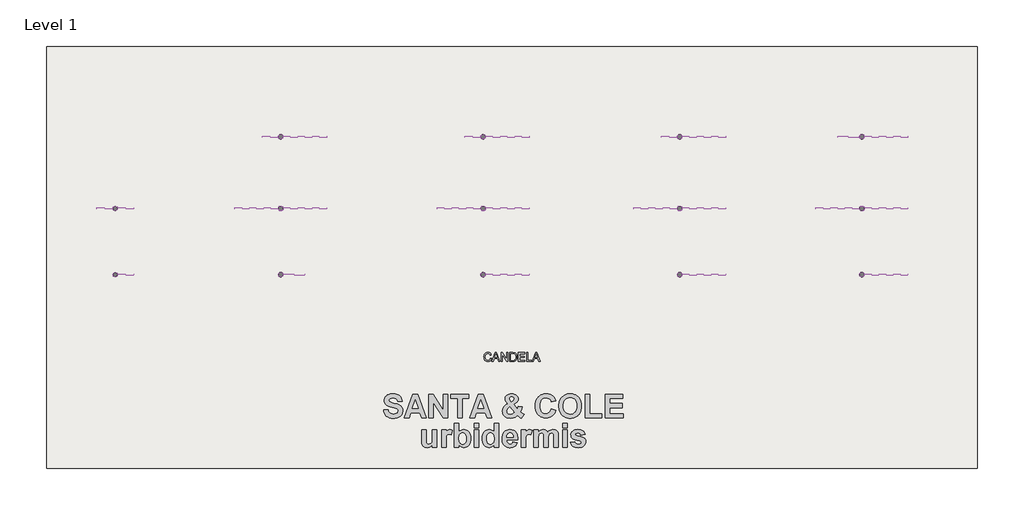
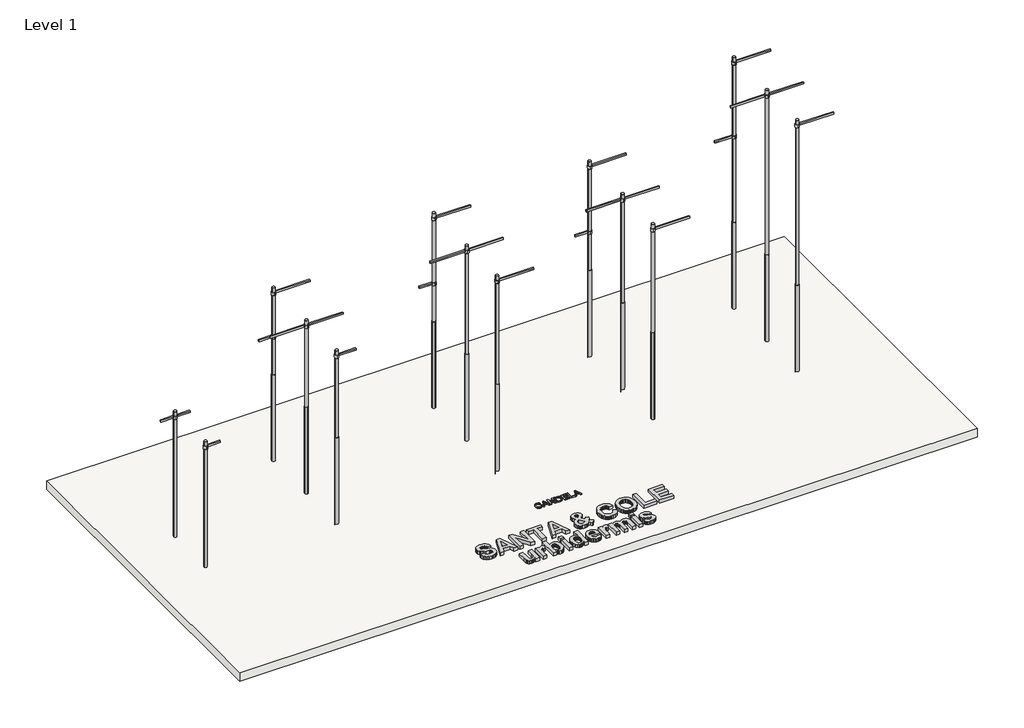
# One storey, incomplete: 32 light fixtures, 2 proxies, 1 slab.
"""IFC4 building model written with IfcOpenShell, lengths in millimetres."""

from ifc_helpers import new_model, si_unit, frame, origin, origin_with_axes, place, context, project, spatial, polyline, outline, extrude, transform, mapped, element, save
from components import light_fixture_f490e10b, light_fixture_0dd875ff, light_fixture_b12cba50, light_fixture_033000f6, light_fixture_89e1cdf7, light_fixture_b2014c29, light_fixture_203ad779, cnf31p_0bf3cfd4, raf21p_b6533331, raf51p_179f5f42, raf81p_6bf53c42

model = new_model("IFC4")

# Units and contexts
model_context = context("Model", 3, world=origin())
ifc_project = project(units=[si_unit("LENGTHUNIT", "METRE", prefix="MILLI")], contexts=[model_context])

# Site, building, storey
site = spatial("IfcSite", under=ifc_project)
building = spatial("IfcBuilding", under=site)
storey = spatial("IfcBuildingStorey", under=building, Name="Level 1", Elevation=0.0)

# Proxies
placement = place(None, origin())
element("IfcBuildingElementProxy", 1, Name="300mm Arial", ObjectType="300mm Arial", at=placement, inside=storey, context=model_context, shape_type="SweptSolid", body=[
    extrude(outline(polyline([(13112.9586959, -8877.0909433), (13150.6298122, -8886.803028), (13143.1756032, -8910.2302133), (13133.2473879, -8930.7005471), (13120.8451661, -8948.2140293), (13105.968938, -8962.77066), (13088.9543957, -8974.2140893), (13070.1372316, -8982.3879674), (13049.5174458, -8987.2922943), (13027.0950382, -8988.9270699), (12983.3998542, -8983.979057), (12948.699385, -8969.1350185), (12922.1015168, -8944.9099892), (12902.7141356, -8911.8190037), (12890.8775324, -8872.9154827), (12886.931998, -8831.2528467), (12891.3925672, -8787.3093424), (12904.7742748, -8749.3623146), (12926.378145, -8718.6165769), (12955.5052019, -8696.2769427), (12990.0493213, -8682.6745059), (13027.9043786, -8678.1403604), (13069.2083296, -8684.0080782), (13087.1770658, -8691.3427255), (13103.3569758, -8701.6112316), (13117.4813451, -8714.5422838), (13129.2834594, -8729.8645689), (13145.9209226, -8767.682838), (13108.2498063, -8776.6591587), (13095.1899955, -8749.1875707), (13077.3477187, -8730.3428155), (13054.5022468, -8719.4443114), (13026.4328506, -8715.8114767), (12994.0776291, -8719.8397845), (12967.498155, -8731.924708), (12947.3290246, -8750.7970544), (12934.2048344, -8775.1876307), (12927.0035444, -8802.7603862), (12924.6031143, -8831.1792703), (12927.4450027, -8865.9809071), (12935.970668, -8896.0736543), (12950.5020068, -8920.3078807), (12971.3609159, -8937.5339552), (12996.3676945, -8947.825454), (13023.3426418, -8951.2559536), (13054.7873554, -8946.5838522), (13080.9897505, -8932.5675482), (13100.7726048, -8909.3541943), (13112.9586959, -8877.0909433)])), origin_with_axes(), (0.0, 0.0, 1.0), 50.0),
    extrude(outline(polyline([(13167.3316548, -8984.2181803), (13287.6290672, -8682.8492499), (13319.7083772, -8682.8492499), (13440.0057896, -8984.2181803), (13400.2009577, -8984.2181803), (13365.6936266, -8890.0403896), (13241.5702414, -8890.0403896), (13207.1364866, -8984.2181803), (13167.3316548, -8984.2181803)]), holes=[polyline([(13255.4026044, -8852.3692733), (13351.9348399, -8852.3692733), (13324.7851487, -8778.2778394), (13303.6687222, -8720.5203662), (13284.9067404, -8771.8031163), (13255.4026044, -8852.3692733)])]), origin_with_axes(), (0.0, 0.0, 1.0), 50.0),
    extrude(outline(polyline([(13480.2520798, -8984.2181803), (13480.2520798, -8682.8492499), (13520.5719465, -8682.8492499), (13678.0254405, -8921.6046648), (13678.0254405, -8682.8492499), (13715.6965568, -8682.8492499), (13715.6965568, -8984.2181803), (13675.3766901, -8984.2181803), (13517.9231962, -8745.3891891), (13517.9231962, -8984.2181803), (13480.2520798, -8984.2181803)])), origin_with_axes(), (0.0, 0.0, 1.0), 50.0),
    extrude(outline(polyline([(13781.6210103, -8984.2181803), (13781.6210103, -8682.8492499), (13885.5844621, -8682.8492499), (13939.3688098, -8687.1902574), (13963.3915041, -8695.5595728), (13983.661802, -8708.7481424), (14004.5023171, -8731.7039789), (14019.3463556, -8760.2516217), (14028.2307058, -8793.8392478), (14031.1921558, -8831.9150343), (14029.187199, -8864.2610588), (14023.1723283, -8892.7259281), (14014.0120667, -8916.9601546), (14002.5709366, -8936.6142502), (13989.4007612, -8952.1296733), (13975.0533634, -8963.9478824), (13958.581447, -8972.7126709), (13939.037716, -8979.0678324), (13890.5876573, -8984.2181803), (13781.6210103, -8984.2181803)]), holes=[polyline([(13819.2921266, -8946.547064), (13885.9523441, -8946.547064), (13913.5250997, -8945.1859007), (13934.4391911, -8941.1024105), (13950.2213287, -8934.5357169), (13962.3982227, -8925.7249431), (13975.4856247, -8909.4185737), (13985.317271, -8888.3113442), (13991.4700974, -8862.3112842), (13993.5210395, -8831.3264231), (13989.5019287, -8790.2707925), (13977.4445963, -8759.9573161), (13959.6299107, -8739.1351952), (13938.3387402, -8726.5536309), (13916.6704907, -8722.0286824), (13884.9222745, -8720.5203662), (13819.2921266, -8720.5203662), (13819.2921266, -8946.547064)])]), origin_with_axes(), (0.0, 0.0, 1.0), 50.0),
    extrude(outline(polyline([(14082.9899407, -8984.2181803), (14082.9899407, -8682.8492499), (14299.5988595, -8682.8492499), (14299.5988595, -8720.5203662), (14120.6610571, -8720.5203662), (14120.6610571, -8809.9892674), (14290.1810804, -8809.9892674), (14290.1810804, -8847.6603837), (14120.6610571, -8847.6603837), (14120.6610571, -8946.547064), (14304.307749, -8946.547064), (14304.307749, -8984.2181803), (14082.9899407, -8984.2181803)])), origin_with_axes(), (0.0, 0.0, 1.0), 50.0),
    extrude(outline(polyline([(14360.8144235, -8984.2181803), (14360.8144235, -8682.8492499), (14398.4855398, -8682.8492499), (14398.4855398, -8946.547064), (14549.170005, -8946.547064), (14549.170005, -8984.2181803), (14360.8144235, -8984.2181803)])), origin_with_axes(), (0.0, 0.0, 1.0), 50.0),
    extrude(outline(polyline([(14556.4540685, -8984.2181803), (14676.751481, -8682.8492499), (14708.8307909, -8682.8492499), (14829.1282034, -8984.2181803), (14789.3233715, -8984.2181803), (14754.8160403, -8890.0403896), (14630.6926552, -8890.0403896), (14596.2589004, -8984.2181803), (14556.4540685, -8984.2181803)]), holes=[polyline([(14644.5250182, -8852.3692733), (14741.0572537, -8852.3692733), (14713.9075625, -8778.2778394), (14692.791136, -8720.5203662), (14674.0291542, -8771.8031163), (14644.5250182, -8852.3692733)])]), origin_with_axes(), (0.0, 0.0, 1.0), 50.0),
])
element("IfcBuildingElementProxy", 2, Name="800mm Arial", ObjectType="800mm Arial", at=placement, inside=storey, context=model_context, shape_type="SweptSolid", body=[
    extrude(outline(polyline([(9417.6656866, -10669.5512491), (9573.7653748, -10656.5429418), (9583.2167231, -10694.1196734), (9596.5299126, -10726.3609664), (9613.7049434, -10753.2668208), (9634.7418155, -10774.8372367), (9659.7040459, -10791.3770963), (9688.6551518, -10803.1912817), (9721.5951332, -10810.2797929), (9758.5239901, -10812.64263), (9797.3329539, -10810.5529165), (9831.0351408, -10804.2837762), (9859.6305508, -10793.835209), (9883.1191839, -10779.207215), (9901.437523, -10761.7844674), (9914.5220509, -10742.9516396), (9922.3727676, -10722.7087317), (9924.9896732, -10701.0557435), (9920.6451018, -10674.5055849), (9907.6113876, -10652.1729635), (9883.7035415, -10633.2956738), (9846.7365743, -10617.1115101), (9711.368876, -10582.3549389), (9648.5377352, -10565.3958664), (9595.8185208, -10546.4296526), (9553.2112329, -10525.4562977), (9520.7158714, -10502.4758016), (9487.0136845, -10466.8935078), (9462.9406938, -10427.6272207), (9448.4968994, -10384.6769402), (9443.6823013, -10338.0426665), (9445.8926973, -10307.3511914), (9452.5238852, -10277.6759902), (9463.5758651, -10249.0170631), (9479.0486369, -10221.37441), (9498.6881322, -10195.8532289), (9522.2402824, -10173.5587177), (9549.7050875, -10154.4908766), (9581.0825477, -10138.6497054), (9616.1312976, -10126.2003488), (9654.6099724, -10117.3079512), (9696.518572, -10111.9725126), (9741.8570963, -10110.1940331), (9814.0316063, -10114.6275285), (9876.6912508, -10127.9280146), (9929.8360299, -10150.0954915), (9952.8403449, -10164.5043515), (9973.4659436, -10181.1299591), (10007.7207295, -10219.5578202), (10032.7401253, -10263.9054774), (10048.524131, -10314.1729307), (10055.0727467, -10370.3601801), (9898.9730585, -10370.3601801), (9891.9163058, -10341.3519088), (9881.7218072, -10316.7263191), (9868.3895625, -10296.4834112), (9851.9195718, -10280.6231849), (9831.6258501, -10268.6629101), (9806.8224125, -10260.1198567), (9777.509259, -10254.9940246), (9743.6863895, -10253.2854139), (9708.4216813, -10255.1020037), (9677.2220692, -10260.5517731), (9650.0875531, -10269.6347221), (9627.018133, -10282.3508507), (9615.1023202, -10292.4881839), (9606.5910254, -10304.2007419), (9601.4842484, -10317.4885246), (9599.7819895, -10332.3515321), (9601.3318073, -10346.1601552), (9605.9812609, -10358.9270975), (9624.5790754, -10381.3359394), (9645.9525882, -10394.3505985), (9678.5686322, -10407.5812158), (9777.5283141, -10434.690325), (9883.1445908, -10462.8919289), (9924.0813783, -10477.4881643), (9957.103932, -10492.4146889), (9984.594144, -10508.897383), (10008.9339066, -10528.1621273), (10030.1232197, -10550.2089216), (10048.1620834, -10575.037766), (10062.5677675, -10602.79475), (10072.8575419, -10633.6259628), (10079.0314065, -10667.5314045), (10081.0893614, -10704.5110751), (10078.6566555, -10738.9119504), (10071.3585377, -10772.1949243), (10059.1950082, -10804.3599968), (10042.1660668, -10835.4071678), (10020.6845748, -10863.9390607), (9995.1633937, -10888.5582986), (9965.6025234, -10909.2648816), (9932.0019639, -10926.0588097), (9894.1902189, -10939.0417102), (9851.9957923, -10948.3152105), (9805.418684, -10953.8793107), (9754.4588941, -10955.7340108), (9681.5158269, -10951.1671295), (9617.5667847, -10937.4664855), (9562.6117675, -10914.6320788), (9516.6507753, -10882.6639094), (9479.3662225, -10841.9430801), (9450.4405235, -10792.8506936), (9429.8736781, -10735.3867499), (9417.6656866, -10669.5512491)])), origin_with_axes(), (0.0, 0.0, 1.0), 150.0),
    extrude(outline(polyline([(10900.6127244, -10942.7257035), (10736.5860989, -10942.7257035), (10672.3575814, -10760.6094006), (10362.8005174, -10760.6094006), (10299.3850191, -10942.7257035), (10133.1225908, -10942.7257035), (10432.3136598, -10123.2023405), (10598.5760881, -10123.2023405), (10900.6127244, -10942.7257035)]), holes=[polyline([(10622.3569, -10617.5180197), (10516.8676576, -10318.3269507), (10412.8011988, -10617.5180197), (10622.3569, -10617.5180197)])]), origin_with_axes(), (0.0, 0.0, 1.0), 150.0),
    extrude(outline(polyline([(10978.6625685, -10942.7257035), (10978.6625685, -10123.2023405), (11142.2826844, -10123.2023405), (11485.9865551, -10674.835874), (11485.9865551, -10123.2023405), (11642.0862433, -10123.2023405), (11642.0862433, -10942.7257035), (11473.3847574, -10942.7257035), (11134.7622567, -10399.222362), (11134.7622567, -10942.7257035), (10978.6625685, -10942.7257035)])), origin_with_axes(), (0.0, 0.0, 1.0), 150.0),
    extrude(outline(polyline([(11980.3022344, -10942.7257035), (11980.3022344, -10266.2937213), (11746.1527021, -10266.2937213), (11746.1527021, -10123.2023405), (12370.5514549, -10123.2023405), (12370.5514549, -10266.2937213), (12136.4019226, -10266.2937213), (12136.4019226, -10942.7257035), (11980.3022344, -10942.7257035)])), origin_with_axes(), (0.0, 0.0, 1.0), 150.0),
    extrude(outline(polyline([(13164.0582032, -10942.7257035), (13000.0315777, -10942.7257035), (12935.8030602, -10760.6094006), (12626.2459962, -10760.6094006), (12562.8304979, -10942.7257035), (12396.5680696, -10942.7257035), (12695.7591386, -10123.2023405), (12862.021567, -10123.2023405), (13164.0582032, -10942.7257035)]), holes=[polyline([(12885.8023788, -10617.5180197), (12780.3131364, -10318.3269507), (12676.2466776, -10617.5180197), (12885.8023788, -10617.5180197)])]), origin_with_axes(), (0.0, 0.0, 1.0), 150.0),
    extrude(outline(polyline([(14282.7726353, -10829.3095238), (14183.9908013, -10955.7340108), (14147.2779027, -10936.615356), (14111.3272095, -10914.2192174), (14041.7124397, -10859.5944893), (13991.8641994, -10902.4812526), (13965.8348813, -10919.046519), (13939.0687645, -10932.3597085), (13910.6512025, -10942.5859658), (13879.6675485, -10949.8904353), (13810.001965, -10955.7340108), (13740.2347541, -10950.271538), (13708.8191838, -10943.443447), (13679.7156367, -10933.8841196), (13652.9241131, -10921.5935557), (13628.4446129, -10906.5717555), (13606.277136, -10888.8187189), (13586.4216825, -10868.3344458), (13560.9894253, -10833.2221787), (13542.8235274, -10795.5692266), (13531.9239886, -10755.3755894), (13528.290809, -10712.6412672), (13531.1300245, -10673.6099935), (13539.6476711, -10636.5985643), (13553.8437487, -10601.6069797), (13573.7182573, -10568.6352398), (13599.2457902, -10537.7214547), (13630.4009403, -10508.9037347), (13667.1837078, -10482.1820799), (13709.5940927, -10457.5564903), (13670.2388816, -10410.3505625), (13642.0118709, -10365.4820648), (13625.0146881, -10322.9509974), (13619.3489605, -10282.7573603), (13623.071064, -10248.0516028), (13634.2373747, -10216.0897851), (13652.8478926, -10186.8719073), (13678.9026175, -10160.3979693), (13711.8425989, -10138.4337472), (13751.1088861, -10122.7450171), (13796.7014789, -10113.3317791), (13848.6203775, -10110.1940331), (13898.8687757, -10113.4524617), (13943.3117085, -10123.2277473), (13981.9491761, -10139.5198901), (14014.7811784, -10162.3288899), (14040.9692893, -10189.8381571), (14059.6750829, -10220.2311017), (14070.898559, -10253.5077239), (14074.6397177, -10289.6680236), (14072.7151488, -10313.3408563), (14066.941442, -10336.3912213), (14057.3185975, -10358.8191183), (14043.8466151, -10380.6245476), (14024.5183538, -10402.8237831), (13997.3266722, -10426.4330987), (13919.3530487, -10477.8819705), (14034.8017764, -10629.9165627), (14056.1435307, -10589.1131611), (14074.2332081, -10537.4356276), (14221.7961946, -10569.956396), (14201.1150184, -10634.3373546), (14183.3810369, -10678.6977152), (14166.5108883, -10710.2530233), (14148.4212109, -10736.2188243), (14219.0522547, -10790.2846017), (14282.7726353, -10829.3095238)]), holes=[polyline([(13784.7983696, -10558.3708723), (13740.7428911, -10587.9190391), (13723.4789364, -10604.7320223), (13709.3908379, -10622.904272), (13690.6405824, -10661.0399543), (13684.3904972, -10700.0394695), (13686.2896593, -10723.7885228), (13691.9871454, -10745.2382561), (13701.4829557, -10764.3886696), (13714.7770901, -10781.239763), (13731.2597843, -10794.9785173), (13750.3212737, -10804.7919132), (13771.9615584, -10810.6799508), (13796.1806385, -10812.64263), (13829.1079165, -10809.0602641), (13860.8156656, -10798.3131664), (13893.336434, -10779.3342492), (13928.7027696, -10751.0564249), (13784.7983696, -10558.3708723)]), polyline([(13840.4901854, -10388.8563671), (13877.4825594, -10356.9453631), (13895.4452026, -10339.0843474), (13908.275662, -10321.2741453), (13915.9739376, -10303.514757), (13918.5400295, -10285.8061823), (13913.5856937, -10258.3159703), (13898.7226863, -10235.1957365), (13875.4754182, -10219.4943031), (13845.3683007, -10214.2604919), (13816.1758297, -10218.8845387), (13794.0464631, -10232.7566789), (13780.0981023, -10252.6756495), (13775.4486486, -10275.4401874), (13777.4049761, -10290.5191531), (13783.2739585, -10307.0971229), (13806.7498882, -10344.750075), (13840.4901854, -10388.8563671)])]), origin_with_axes(), (0.0, 0.0, 1.0), 150.0),
    extrude(outline(polyline([(15219.3707644, -10630.5263271), (15375.4704526, -10682.5595565), (15353.9127402, -10744.2791476), (15326.2319768, -10797.5255541), (15292.4281625, -10842.298776), (15252.5012972, -10878.5988133), (15206.6165256, -10906.6543278), (15154.9389921, -10926.6939809), (15097.4686967, -10938.7177728), (15034.2056395, -10942.7257035), (14994.2120813, -10941.0139169), (14956.0414646, -10935.8785573), (14919.6937894, -10927.3196246), (14885.1690557, -10915.3371189), (14852.4672635, -10899.93104), (14821.5884128, -10881.1013881), (14792.5325037, -10858.8481631), (14765.299536, -10833.171365), (14740.6231327, -10804.5251413), (14719.2369164, -10773.3636394), (14701.1408873, -10739.6868594), (14686.3350453, -10703.4948011), (14674.8193904, -10664.7874647), (14666.5939226, -10623.5648501), (14661.658642, -10579.8269573), (14660.0135484, -10533.5737864), (14661.6729333, -10484.722765), (14666.651088, -10438.6792005), (14674.9480126, -10395.443093), (14686.563707, -10355.0144425), (14701.4981712, -10317.3932489), (14719.7514052, -10282.5795123), (14741.323409, -10250.5732327), (14766.2141826, -10221.37441), (14793.8107858, -10195.3165092), (14823.5002783, -10172.7329951), (14855.2826601, -10153.6238678), (14889.1579312, -10137.9891273), (14925.1260916, -10125.8287736), (14963.1871412, -10117.1428067), (15003.3410802, -10111.9312265), (15045.5879084, -10110.1940331), (15117.6417359, -10115.9232778), (15151.0009303, -10123.0848338), (15182.5816452, -10133.1110121), (15212.3838806, -10146.0018127), (15240.4076365, -10161.7572358), (15266.6529128, -10180.3772812), (15291.1197097, -10201.861949), (15317.5047237, -10231.8547357), (15340.3581855, -10267.7673186), (15359.6800952, -10309.5996976), (15375.4704526, -10357.3518727), (15219.3707644, -10383.3684874), (15209.5319617, -10354.7794292), (15195.4629183, -10329.3789306), (15177.1636344, -10307.1669917), (15154.6341099, -10288.1436125), (15128.6619572, -10272.8931507), (15100.0347886, -10261.9999636), (15068.7526042, -10255.4640514), (15034.8154039, -10253.2854139), (14988.428847, -10257.2425309), (14946.6282266, -10269.1138817), (14909.4135426, -10288.8994663), (14876.7847951, -10316.5992849), (14850.2409883, -10353.1533907), (14831.2811262, -10399.5018374), (14819.905209, -10455.6446248), (14816.1132366, -10521.581753), (14819.7908782, -10591.3743708), (14830.8238029, -10650.3436703), (14849.2120108, -10698.4896516), (14874.9555019, -10735.8123147), (14906.5933822, -10763.7344432), (14942.6647579, -10783.6788206), (14983.169629, -10795.6454471), (15028.1079954, -10799.6343226), (15061.5624656, -10797.0872859), (15092.6159883, -10789.4461757), (15121.2685637, -10776.7109919), (15147.5201918, -10758.8817348), (15170.7992184, -10735.5773013), (15190.5339894, -10706.4165889), (15206.7245047, -10671.3995975), (15219.3707644, -10630.5263271)])), origin_with_axes(), (0.0, 0.0, 1.0), 150.0),
    extrude(outline(polyline([(15479.5369114, -10538.045392), (15481.8362314, -10478.0598185), (15488.7341912, -10423.1048013), (15500.230791, -10373.1803405), (15516.3260306, -10328.286436), (15548.7705785, -10269.063068), (15591.2254253, -10216.1914125), (15640.9466313, -10172.9235465), (15667.5031416, -10156.1105633), (15695.1902567, -10142.5115467), (15734.2405856, -10128.3726345), (15776.1872954, -10118.2734115), (15821.0303862, -10112.2138777), (15868.7698579, -10110.1940331), (15912.1202962, -10111.9455178), (15953.2476351, -10117.1999721), (15992.1518746, -10125.9573958), (16028.8330147, -10138.217789), (16063.2910554, -10153.9811517), (16095.5259968, -10173.2474838), (16125.5378387, -10196.0167855), (16153.3265812, -10222.2890566), (16178.3364494, -10251.6800186), (16200.0116686, -10283.8053929), (16218.3522386, -10318.6651794), (16233.3581596, -10356.2593782), (16245.0294314, -10396.5879892), (16253.3660542, -10439.6510126), (16258.3680278, -10485.4484481), (16260.0353524, -10533.980296), (16258.3807313, -10582.1739151), (16253.4168679, -10627.6680564), (16245.1437623, -10670.4627199), (16233.5614144, -10710.5579055), (16218.6698243, -10747.9536133), (16200.4689919, -10782.6498432), (16178.9589173, -10814.6465953), (16154.1396004, -10843.9438695), (16126.547761, -10870.1446839), (16096.7201187, -10892.8520563), (16064.6566736, -10912.0659869), (16030.3574258, -10927.7864755), (15993.822375, -10940.0135222), (15955.0515215, -10948.747127), (15914.0448651, -10953.9872899), (15870.8024059, -10955.7340108), (15827.0835683, -10953.9952295), (15785.6640506, -10948.7788856), (15746.5438529, -10940.084979), (15709.7229751, -10927.9135097), (15675.2014172, -10912.2644779), (15642.9791794, -10893.1378834), (15613.0562614, -10870.5337263), (15585.4326634, -10844.4520065), (15560.6133466, -10815.3214648), (15539.1032719, -10783.5708415), (15520.9024396, -10749.2001369), (15506.0108494, -10712.2093508), (15494.4285016, -10672.5984832), (15486.1553959, -10630.3675343), (15481.1915326, -10585.5165039), (15479.5369114, -10538.045392)]), holes=[polyline([(15635.6365996, -10532.3542576), (15639.7842679, -10597.1798361), (15652.2272729, -10653.6465608), (15672.9656144, -10701.7544319), (15701.9992926, -10741.5034492), (15737.4227936, -10772.6268408), (15777.3306037, -10794.8578348), (15821.7227229, -10808.1964312), (15870.5991511, -10812.64263), (15919.4247657, -10808.2281897), (15963.6644437, -10794.984869), (16003.3181853, -10772.9126678), (16038.3859904, -10742.0115862), (16067.0639727, -10702.281624), (16087.5482458, -10653.7227814), (16099.8388096, -10596.3350583), (16103.9356642, -10530.1184547), (16099.9467887, -10464.8228495), (16087.9801622, -10408.3688281), (16068.0357847, -10360.7563907), (16040.1136563, -10321.9855371), (16005.5857467, -10291.9292332), (15965.824026, -10270.4604447), (15920.8284941, -10257.5791716), (15870.5991511, -10253.2854139), (15820.3189944, -10257.6299853), (15775.1710214, -10270.6636995), (15735.1552322, -10292.3865565), (15700.2716268, -10322.7985563), (15671.9938024, -10361.9632161), (15651.7953564, -10409.9440528), (15639.6762888, -10466.7410667), (15635.6365996, -10532.3542576)])]), origin_with_axes(), (0.0, 0.0, 1.0), 150.0),
    extrude(outline(polyline([(16390.1184259, -10942.7257035), (16390.1184259, -10123.2023405), (16546.2181141, -10123.2023405), (16546.2181141, -10799.6343226), (16962.4839493, -10799.6343226), (16962.4839493, -10942.7257035), (16390.1184259, -10942.7257035)])), origin_with_axes(), (0.0, 0.0, 1.0), 150.0),
    extrude(outline(polyline([(17079.5587154, -10942.7257035), (17079.5587154, -10123.2023405), (17690.9491608, -10123.2023405), (17690.9491608, -10266.2937213), (17235.6584036, -10266.2937213), (17235.6584036, -10448.4100242), (17664.9325461, -10448.4100242), (17664.9325461, -10591.501405), (17235.6584036, -10591.501405), (17235.6584036, -10799.6343226), (17703.9574682, -10799.6343226), (17703.9574682, -10942.7257035), (17079.5587154, -10942.7257035)])), origin_with_axes(), (0.0, 0.0, 1.0), 150.0),
    extrude(outline(polyline([(11108.745642, -11959.530826), (11108.745642, -11871.7247514), (11091.9834725, -11893.9493936), (11072.7949488, -11913.6714612), (11051.180071, -11930.890954), (11027.1388389, -11945.607872), (11001.5223821, -11957.3902988), (10975.18183, -11965.806318), (10948.1171828, -11970.8559295), (10920.3284402, -11972.5391333), (10892.4952357, -11970.887688), (10866.1102217, -11965.9333522), (10841.1733982, -11957.6761259), (10817.6847651, -11946.116009), (10796.4954519, -11931.5642355), (10778.4565882, -11914.3320393), (10763.5681739, -11894.4194204), (10751.8302091, -11871.8263788), (10742.9378115, -11845.6001575), (10736.5860989, -11814.7879998), (10731.5047289, -11739.405875), (10731.5047289, -11361.1486879), (10887.6044171, -11361.1486879), (10887.6044171, -11637.7784739), (10889.7131856, -11740.1934874), (10896.0394914, -11793.3700251), (10907.980711, -11818.9801301), (10926.9342213, -11838.695846), (10952.4172922, -11851.2722369), (10983.9471934, -11855.4643672), (11021.3206702, -11849.8748601), (11054.5782372, -11833.1063389), (11080.8489204, -11808.0297777), (11097.2617457, -11777.5161505), (11102.2859503, -11754.897702), (11105.8746679, -11720.2745168), (11108.745642, -11615.013936), (11108.745642, -11361.1486879), (11264.8453302, -11361.1486879), (11264.8453302, -11959.530826), (11108.745642, -11959.530826)])), origin_with_axes(), (0.0, 0.0, 1.0), 150.0),
    extrude(outline(polyline([(11577.0447066, -11959.530826), (11420.9450184, -11959.530826), (11420.9450184, -11361.1486879), (11577.0447066, -11361.1486879), (11577.0447066, -11444.4831568), (11610.0227983, -11395.4733426), (11639.4439309, -11366.7381949), (11669.0175046, -11352.7898341), (11702.4529196, -11348.1403805), (11727.0340473, -11350.1983354), (11751.1832585, -11356.3722), (11774.9005532, -11366.6619744), (11798.1859315, -11381.0676585), (11752.6568558, -11529.646919), (11715.0547174, -11510.5917813), (11680.2981462, -11504.2400687), (11650.292656, -11508.6862675), (11625.3177221, -11522.0248639), (11605.2463104, -11546.9489841), (11589.9513865, -11586.1517541), (11584.3047141, -11615.6745141), (11580.2713766, -11657.9006993), (11577.0447066, -11780.4633451), (11577.0447066, -11959.530826)])), origin_with_axes(), (0.0, 0.0, 1.0), 150.0),
    extrude(outline(polyline([(11863.2274683, -11959.530826), (11863.2274683, -11140.0074629), (12019.3271565, -11140.0074629), (12019.3271565, -11430.0520659), (12056.751447, -11394.2157035), (12097.478628, -11368.6183019), (12141.5086995, -11353.2598609), (12188.8416616, -11348.1403805), (12239.9856513, -11353.0820129), (12286.5055941, -11367.9069101), (12328.4014903, -11392.615072), (12365.6733397, -11427.2064986), (12396.2631874, -11471.0460188), (12418.1130787, -11523.4984612), (12431.2230134, -11584.5638259), (12435.5929917, -11654.2421129), (12431.2484203, -11726.2832369), (12418.2147061, -11789.5589975), (12396.4918491, -11844.0693948), (12366.0798493, -11889.8144288), (12329.468578, -11926.006487), (12289.1479066, -11951.8579572), (12245.117835, -11967.3688393), (12197.3783633, -11972.5391333), (12148.9274998, -11966.2890481), (12101.1372144, -11947.5387926), (12078.2265872, -11933.5269147), (12056.9547018, -11916.4916216), (12037.3215582, -11896.4329133), (12019.3271565, -11873.3507898), (12019.3271565, -11959.530826), (11863.2274683, -11959.530826)]), holes=[polyline([(12019.3271565, -11648.957488), (12021.1310428, -11693.6989514), (12026.542702, -11732.1903295), (12035.5621338, -11764.4316226), (12048.1893384, -11790.4228304), (12069.988416, -11818.8785027), (12095.1411977, -11839.203983), (12123.6476838, -11851.3992711), (12155.507874, -11855.4643672), (12180.2732014, -11852.5806897), (12203.1457183, -11843.9296571), (12224.125425, -11829.5112696), (12243.2123212, -11809.325527), (12259.085251, -11782.9532164), (12270.4230579, -11749.9751248), (12277.2257421, -11710.391252), (12279.4933035, -11664.2015982), (12277.2130386, -11615.0456946), (12270.3722442, -11573.270481), (12258.9709201, -11538.8759574), (12243.0090664, -11511.8621238), (12223.4775503, -11491.4540713), (12201.3672388, -11476.876891), (12176.678132, -11468.1305828), (12149.41023, -11465.2151467), (12122.6377615, -11468.0607139), (12098.2154266, -11476.5974156), (12076.1432254, -11490.8252518), (12056.4211579, -11510.7442224), (12040.1925323, -11536.4559549), (12028.6006568, -11568.0620767), (12021.6455316, -11605.5625877), (12019.3271565, -11648.957488)])]), origin_with_axes(), (0.0, 0.0, 1.0), 150.0),
    extrude(outline(polyline([(12552.6677578, -11283.0988438), (12552.6677578, -11140.0074629), (12708.767446, -11140.0074629), (12708.767446, -11283.0988438), (12552.6677578, -11283.0988438)])), origin_with_axes(), (0.0, 0.0, 1.0), 150.0),
    extrude(outline(polyline([(12552.6677578, -11959.530826), (12552.6677578, -11361.1486879), (12708.767446, -11361.1486879), (12708.767446, -11959.530826), (12552.6677578, -11959.530826)])), origin_with_axes(), (0.0, 0.0, 1.0), 150.0),
    extrude(outline(polyline([(13398.2077355, -11959.530826), (13242.1080473, -11959.530826), (13242.1080473, -11873.3507898), (13223.8468737, -11896.8457746), (13204.0231787, -11917.1267928), (13182.6369625, -11934.1938445), (13159.688225, -11948.0469296), (13112.0503807, -11966.4160824), (13064.0568405, -11972.5391333), (13016.7302301, -11967.3561358), (12972.9224685, -11951.8071435), (12932.6335556, -11925.8921562), (12895.8634915, -11889.611174), (12865.2291818, -11844.043988), (12843.347532, -11790.2703893), (12830.2185421, -11728.290378), (12825.8422121, -11658.1039541), (12830.2121904, -11586.7361116), (12843.3221251, -11524.4639216), (12865.1720164, -11471.2873839), (12895.7618641, -11427.2064986), (12933.0337135, -11392.615072), (12974.9296096, -11367.9069101), (13021.4495525, -11353.0820129), (13072.5935422, -11348.1403805), (13119.9265043, -11353.2598609), (13163.9565758, -11368.6183019), (13204.6837568, -11394.2157035), (13242.1080473, -11430.0520659), (13242.1080473, -11140.0074629), (13398.2077355, -11140.0074629), (13398.2077355, -11959.530826)]), holes=[polyline([(12981.9419003, -11648.957488), (12983.5679387, -11694.8422596), (12988.446054, -11733.9179954), (12996.5762461, -11766.1846952), (13007.958515, -11791.6423592), (13028.6269877, -11819.5644877), (13053.0302674, -11839.5088652), (13081.1683541, -11851.4754917), (13113.0412478, -11855.4643672), (13138.9562351, -11852.4727105), (13162.8386744, -11843.4977407), (13184.6885657, -11828.5394576), (13204.5059089, -11807.5978612), (13220.9568445, -11780.7110619), (13232.7075127, -11747.9171699), (13239.7579137, -11709.2161852), (13242.1080473, -11664.6081078), (13239.8277825, -11615.2743562), (13232.9869881, -11573.3721084), (13221.585664, -11538.9013642), (13205.6238103, -11511.8621238), (13186.0922941, -11491.4540713), (13163.9819827, -11476.876891), (13139.2928759, -11468.1305828), (13112.0249738, -11465.2151467), (13085.5002221, -11468.0988242), (13061.2112732, -11476.7498567), (13039.1581272, -11491.1682443), (13019.340784, -11511.3539868), (13002.9787724, -11537.2562707), (12991.2916212, -11568.8242822), (12984.2793306, -11606.0580213), (12981.9419003, -11648.957488)])]), origin_with_axes(), (0.0, 0.0, 1.0), 150.0),
    extrude(outline(polyline([(13892.5234148, -11777.4145231), (14048.623103, -11803.4311378), (14031.7529544, -11842.3226739), (14010.6144549, -11876.2725776), (13985.2076047, -11905.2808489), (13955.5324035, -11929.3474878), (13921.7285892, -11948.2438327), (13883.9358994, -11961.7412219), (13842.1543341, -11969.8396555), (13796.3838933, -11972.5391333), (13759.8075564, -11970.9480293), (13725.6893324, -11966.1747173), (13694.029221, -11958.2191973), (13664.8272225, -11947.0814693), (13638.0833367, -11932.7615333), (13613.7975637, -11915.2593893), (13591.9699034, -11894.5750373), (13572.6003559, -11870.7084773), (13547.5237947, -11827.2754668), (13529.6119652, -11778.4816108), (13518.8648675, -11724.3269094), (13515.2825017, -11664.8113626), (13520.0335827, -11594.6376421), (13534.2868257, -11532.4924863), (13558.0422307, -11478.3758951), (13591.2997977, -11432.2878687), (13631.8237239, -11395.4733426), (13677.3782065, -11369.1772526), (13727.9632455, -11353.3995985), (13783.5788407, -11348.1403805), (13845.3810041, -11353.5393362), (13900.297911, -11369.7362033), (13925.1743933, -11381.8838536), (13948.3295615, -11396.7309817), (13989.4759555, -11434.5236715), (14007.098782, -11457.5581572), (14022.2634958, -11483.4699686), (14034.9700968, -11512.2591059), (14045.218585, -11543.9255689), (14058.3412232, -11615.8904723), (14061.6314103, -11699.364679), (13671.3821899, -11699.364679), (13674.2912742, -11734.2990981), (13681.3924889, -11765.1176075), (13692.6858338, -11791.8202072), (13708.1713091, -11814.4068971), (13726.8326406, -11832.3695402), (13747.6535544, -11845.1999996), (13770.6340505, -11852.8982753), (13795.7741289, -11855.4643672), (13828.5489658, -11850.8403204), (13855.7342956, -11836.9681802), (13877.1268635, -11812.8316724), (13892.5234148, -11777.4145231)]), holes=[polyline([(13905.5317221, -11608.3065275), (13902.749672, -11575.347491), (13896.0295601, -11546.5932882), (13885.3713864, -11522.0439191), (13870.7751509, -11501.6993837), (13853.3206448, -11485.73753), (13834.0876591, -11474.3362059), (13813.0761939, -11467.4954115), (13790.2862492, -11465.2151467), (13766.0735209, -11467.616094), (13744.0457817, -11474.8189361), (13724.2030316, -11486.8236729), (13706.5452707, -11503.6303043), (13692.1649934, -11524.6544729), (13681.9514396, -11549.1085663), (13675.9046092, -11576.9925845), (13674.0245023, -11608.3065275), (13905.5317221, -11608.3065275)])]), origin_with_axes(), (0.0, 0.0, 1.0), 150.0),
    extrude(outline(polyline([(14334.8058647, -11959.530826), (14178.7061765, -11959.530826), (14178.7061765, -11361.1486879), (14334.8058647, -11361.1486879), (14334.8058647, -11444.4831568), (14367.7839564, -11395.4733426), (14397.205089, -11366.7381949), (14426.7786627, -11352.7898341), (14460.2140777, -11348.1403805), (14484.7952054, -11350.1983354), (14508.9444166, -11356.3722), (14532.6617113, -11366.6619744), (14555.9470896, -11381.0676585), (14510.4180139, -11529.646919), (14472.8158755, -11510.5917813), (14438.0593043, -11504.2400687), (14408.0538141, -11508.6862675), (14383.0788802, -11522.0248639), (14363.0074685, -11546.9489841), (14347.7125446, -11586.1517541), (14342.0658721, -11615.6745141), (14338.0325347, -11657.9006993), (14334.8058647, -11780.4633451), (14334.8058647, -11959.530826)])), origin_with_axes(), (0.0, 0.0, 1.0), 150.0),
    extrude(outline(polyline([(14607.980319, -11361.1486879), (14764.0800072, -11361.1486879), (14764.0800072, -11441.23108), (14802.5078683, -11400.503899), (14844.4164678, -11371.4130554), (14889.8058059, -11353.9585493), (14938.6758824, -11348.1403805), (14988.9560391, -11353.8569219), (15011.4093431, -11361.0025985), (15032.0714641, -11371.0065458), (15050.9551056, -11383.906874), (15068.0729709, -11399.7416935), (15097.0113734, -11440.214806), (15136.9763489, -11399.7416935), (15180.0409602, -11371.0065458), (15226.1543935, -11353.8569219), (15275.2658351, -11348.1403805), (15306.1478616, -11349.8108809), (15334.5654237, -11354.8223822), (15360.5185212, -11363.1748842), (15384.0071543, -11374.868387), (15404.8661784, -11389.8012633), (15422.930449, -11407.8718856), (15438.199966, -11429.0802539), (15450.6747295, -11453.4263681), (15457.6107996, -11475.4922176), (15462.5651354, -11503.4778632), (15466.5286041, -11577.2085428), (15466.5286041, -11959.530826), (15310.4289159, -11959.530826), (15310.4289159, -11615.013936), (15306.4654472, -11541.2832565), (15301.5111114, -11516.3464329), (15294.5750413, -11499.3619535), (15282.5576011, -11484.4227255), (15267.64378, -11473.7518484), (15249.8335779, -11467.3493221), (15229.1269949, -11465.2151467), (15197.9527896, -11470.3219236), (15168.6586913, -11485.6422543), (15144.268115, -11510.820443), (15127.804476, -11545.5007936), (15118.4293482, -11596.3653079), (15115.3043056, -11670.0959874), (15115.3043056, -11959.530826), (14959.2046174, -11959.530826), (14959.2046174, -11629.2417722), (14957.1720694, -11556.8576557), (14951.0744254, -11515.7239651), (14940.7338373, -11493.4675642), (14925.9724573, -11477.715317), (14905.9264524, -11468.3401893), (14879.7319897, -11465.2151467), (14846.3473885, -11470.1694825), (14816.5197462, -11485.0324899), (14792.4340521, -11509.2706251), (14776.2752953, -11542.3503442), (14767.1288292, -11592.1731776), (14764.0800072, -11666.6406558), (14764.0800072, -11959.530826), (14607.980319, -11959.530826), (14607.980319, -11361.1486879)])), origin_with_axes(), (0.0, 0.0, 1.0), 150.0),
    extrude(outline(polyline([(15622.6282923, -11283.0988438), (15622.6282923, -11140.0074629), (15778.7279805, -11140.0074629), (15778.7279805, -11283.0988438), (15622.6282923, -11283.0988438)])), origin_with_axes(), (0.0, 0.0, 1.0), 150.0),
    extrude(outline(polyline([(15622.6282923, -11959.530826), (15622.6282923, -11361.1486879), (15778.7279805, -11361.1486879), (15778.7279805, -11959.530826), (15622.6282923, -11959.530826)])), origin_with_axes(), (0.0, 0.0, 1.0), 150.0),
    extrude(outline(polyline([(15869.7861319, -11790.4228304), (16025.8858201, -11764.4062157), (16032.0406296, -11785.4176809), (16040.7488275, -11803.73602), (16052.0104139, -11819.3612329), (16065.8253888, -11832.2933197), (16082.4097103, -11842.430653), (16101.9793367, -11849.6716053), (16124.5342681, -11854.0161767), (16150.0745043, -11855.4643672), (16202.2601748, -11849.9256738), (16222.8270201, -11843.0023071), (16239.7098722, -11833.3095937), (16254.9539823, -11815.2199163), (16260.0353524, -11791.845614), (16257.3422263, -11775.6868572), (16249.2628479, -11762.5769225), (16230.8174746, -11751.8552317), (16198.2458925, -11742.0481875), (16114.4159899, -11721.6464867), (16047.4816429, -11702.1086188), (15997.4428512, -11683.4345838), (15964.299615, -11665.6243818), (15934.3322351, -11639.0869267), (15912.9269637, -11607.8492042), (15900.0838009, -11571.9112145), (15895.8027466, -11531.2729574), (15899.4740365, -11494.090032), (15910.4879061, -11459.9813355), (15928.8443554, -11428.9468679), (15954.5433845, -11400.9866291), (15987.966096, -11377.8663954), (16029.4935928, -11361.3519427), (16079.1258749, -11351.4432711), (16136.8629422, -11348.1403805), (16191.8306628, -11350.8080998), (16239.2525489, -11358.8112577), (16279.1286004, -11372.1498541), (16311.4588174, -11390.823889), (16337.7930177, -11414.7317352), (16359.6810192, -11443.771765), (16377.122822, -11477.9439787), (16390.1184259, -11517.2483761), (16234.0187377, -11543.2649908), (16222.5348414, -11509.8803895), (16203.9370269, -11485.3373721), (16191.6909251, -11476.5338985), (16177.107393, -11470.245703), (16140.9280382, -11465.2151467), (16096.4660502, -11469.4834975), (16079.7610461, -11474.8189361), (16066.7400354, -11482.2885501), (16055.6118349, -11496.3131314), (16051.9024348, -11513.9962992), (16055.6118349, -11529.2912231), (16066.7400354, -11542.2487168), (16082.8416267, -11550.772715), (16111.2274302, -11560.8973449), (16204.8516736, -11585.9484993), (16259.4827534, -11600.9004307), (16305.1833254, -11617.5038073), (16341.9533894, -11635.7586293), (16369.7929457, -11655.6648965), (16390.0676122, -11678.7724268), (16404.5495169, -11706.0212737), (16413.2386597, -11737.4114373), (16416.1350406, -11772.9429174), (16411.9365586, -11812.4569213), (16399.3411125, -11849.0872477), (16378.3487025, -11882.8338966), (16348.9593284, -11913.696868), (16311.3381348, -11939.4403591), (16265.6502663, -11957.828567), (16211.8957228, -11968.8614917), (16150.0745043, -11972.5391333), (16093.4362833, -11969.4776078), (16043.035444, -11960.2930315), (15998.8719865, -11944.9854042), (15960.9459108, -11923.5547259), (15929.1428859, -11896.8648297), (15903.3485811, -11865.7795484), (15883.5629965, -11830.2988819), (15869.7861319, -11790.4228304)])), origin_with_axes(), (0.0, 0.0, 1.0), 150.0),
])

# Light fixtures
light_fixture_shape = light_fixture_f490e10b(model_context)
element("IfcLightFixture", 3, ObjectType="CANDELA_CLF : 1XCLF03", at=placement, inside=storey, context=model_context, shape_type="MappedRepresentation", body=[
    mapped(light_fixture_shape, transform((133.9758125, -5984.6658915, 5520.0), x_axis=(1.0, 0.0, 0.0), y_axis=(0.0, 1.0, 0.0), z_axis=(0.0, 0.0, 1.0))),
])
light_fixture_2_shape = light_fixture_0dd875ff(model_context)
element("IfcLightFixture", 4, ObjectType="CANDELA_CLF : 2XCLF03", at=placement, inside=storey, context=model_context, shape_type="MappedRepresentation", body=[
    mapped(light_fixture_2_shape, transform((133.9758125, -3694.3421705, 5520.0), x_axis=(1.0, 0.0, 0.0), y_axis=(0.0, 1.0, 0.0), z_axis=(0.0, 0.0, 1.0))),
])
light_fixture_3_shape = light_fixture_b12cba50(model_context)
element("IfcLightFixture", 5, ObjectType="CANDELA_CLF : 1XCLF04", at=placement, inside=storey, context=model_context, shape_type="MappedRepresentation", body=[
    mapped(light_fixture_3_shape, transform((5859.2006937, -5984.6658915, 7720.0), x_axis=(1.0, 0.0, 0.0), y_axis=(0.0, 1.0, 0.0), z_axis=(0.0, 0.0, 1.0))),
])
light_fixture_4_shape = light_fixture_033000f6(model_context)
element("IfcLightFixture", 6, ObjectType="CANDELA_CLF : 1XCLF05", at=placement, inside=storey, context=model_context, shape_type="MappedRepresentation", body=[
    mapped(light_fixture_4_shape, transform((25959.2006937, -5984.6658915, 11320.0), x_axis=(1.0, 0.0, 0.0), y_axis=(0.0, 1.0, 0.0), z_axis=(0.0, 0.0, 1.0))),
])
element("IfcLightFixture", 7, ObjectType="CANDELA_CLF : 1XCLF05", at=placement, inside=storey, context=model_context, shape_type="MappedRepresentation", body=[
    mapped(light_fixture_4_shape, transform((25959.2006937, -1208.3713546, 11320.0), x_axis=(1.0, 0.0, 0.0), y_axis=(0.0, 1.0, 0.0), z_axis=(0.0, 0.0, 1.0))),
])
element("IfcLightFixture", 8, ObjectType="CANDELA_CLF : 1XCLF05", at=placement, inside=storey, context=model_context, shape_type="MappedRepresentation", body=[
    mapped(light_fixture_4_shape, transform((12859.2006937, -1208.3713546, 8720.0), x_axis=(1.0, 0.0, 0.0), y_axis=(0.0, 1.0, 0.0), z_axis=(0.0, 0.0, 1.0))),
])
element("IfcLightFixture", 9, ObjectType="CANDELA_CLF : 1XCLF05", at=placement, inside=storey, context=model_context, shape_type="MappedRepresentation", body=[
    mapped(light_fixture_4_shape, transform((12859.2006937, -5984.6658915, 8720.0), x_axis=(1.0, 0.0, 0.0), y_axis=(0.0, 1.0, 0.0), z_axis=(0.0, 0.0, 1.0))),
])
element("IfcLightFixture", 10, ObjectType="CANDELA_CLF : 1XCLF05", at=placement, inside=storey, context=model_context, shape_type="MappedRepresentation", body=[
    mapped(light_fixture_4_shape, transform((5859.2006937, -1208.3713546, 7720.0), x_axis=(1.0, 0.0, 0.0), y_axis=(0.0, 1.0, 0.0), z_axis=(0.0, 0.0, 1.0))),
])
element("IfcLightFixture", 11, ObjectType="CANDELA_CLF : 1XCLF05", at=placement, inside=storey, context=model_context, shape_type="MappedRepresentation", body=[
    mapped(light_fixture_4_shape, transform((19659.2006937, -1208.3713546, 8720.0), x_axis=(1.0, 0.0, 0.0), y_axis=(0.0, 1.0, 0.0), z_axis=(0.0, 0.0, 1.0))),
])
element("IfcLightFixture", 12, ObjectType="CANDELA_CLF : 1XCLF05", at=placement, inside=storey, context=model_context, shape_type="MappedRepresentation", body=[
    mapped(light_fixture_4_shape, transform((19659.2006937, -5984.6658915, 8720.0), x_axis=(1.0, 0.0, 0.0), y_axis=(0.0, 1.0, 0.0), z_axis=(0.0, 0.0, 1.0))),
])
light_fixture_5_shape = light_fixture_89e1cdf7(model_context)
element("IfcLightFixture", 13, ObjectType="CANDELA_CLF : 2XCLF05", at=placement, inside=storey, context=model_context, shape_type="MappedRepresentation", body=[
    mapped(light_fixture_5_shape, transform((25959.2006937, -3694.3421705, 11320.0), x_axis=(1.0, 0.0, 0.0), y_axis=(0.0, 1.0, 0.0), z_axis=(0.0, 0.0, 1.0))),
])
element("IfcLightFixture", 14, ObjectType="CANDELA_CLF : 2XCLF05", at=placement, inside=storey, context=model_context, shape_type="MappedRepresentation", body=[
    mapped(light_fixture_5_shape, transform((12859.2006937, -3694.3421705, 8720.0), x_axis=(1.0, 0.0, 0.0), y_axis=(0.0, 1.0, 0.0), z_axis=(0.0, 0.0, 1.0))),
])
element("IfcLightFixture", 15, ObjectType="CANDELA_CLF : 2XCLF05", at=placement, inside=storey, context=model_context, shape_type="MappedRepresentation", body=[
    mapped(light_fixture_5_shape, transform((5859.2006937, -3694.3421705, 7720.0), x_axis=(1.0, 0.0, 0.0), y_axis=(0.0, 1.0, 0.0), z_axis=(0.0, 0.0, 1.0))),
])
element("IfcLightFixture", 16, ObjectType="CANDELA_CLF : 2XCLF05", at=placement, inside=storey, context=model_context, shape_type="MappedRepresentation", body=[
    mapped(light_fixture_5_shape, transform((19659.2006937, -3694.3421705, 8720.0), x_axis=(1.0, 0.0, 0.0), y_axis=(0.0, 1.0, 0.0), z_axis=(0.0, 0.0, 1.0))),
])
light_fixture_6_shape = light_fixture_b2014c29(model_context)
element("IfcLightFixture", 17, ObjectType="CANDELA_CLF : 1XCLF03", at=placement, inside=storey, context=model_context, shape_type="MappedRepresentation", body=[
    mapped(light_fixture_6_shape, transform((12859.2006937, -1208.3713546, 5720.0), x_axis=(-1.0, 0.0, 0.0), y_axis=(0.0, -1.0, 0.0), z_axis=(0.0, 0.0, 1.0))),
])
element("IfcLightFixture", 18, ObjectType="CANDELA_CLF : 1XCLF03", at=placement, inside=storey, context=model_context, shape_type="MappedRepresentation", body=[
    mapped(light_fixture_6_shape, transform((5859.2006937, -1208.3713546, 5720.0), x_axis=(-1.0, 0.0, 0.0), y_axis=(0.0, -1.0, 0.0), z_axis=(0.0, 0.0, 1.0))),
])
element("IfcLightFixture", 19, ObjectType="CANDELA_CLF : 1XCLF03", at=placement, inside=storey, context=model_context, shape_type="MappedRepresentation", body=[
    mapped(light_fixture_6_shape, transform((19659.2006937, -1208.3713546, 5720.0), x_axis=(-1.0, 0.0, 0.0), y_axis=(0.0, -1.0, 0.0), z_axis=(0.0, 0.0, 1.0))),
])
light_fixture_7_shape = light_fixture_203ad779(model_context)
element("IfcLightFixture", 20, ObjectType="CANDELA_CLF : 1XCLF04", at=placement, inside=storey, context=model_context, shape_type="MappedRepresentation", body=[
    mapped(light_fixture_7_shape, transform((25959.2006937, -1208.3713546, 7920.0), x_axis=(-1.0, 0.0, 0.0), y_axis=(0.0, -1.0, 0.0), z_axis=(0.0, 0.0, 1.0))),
])
cnf31p_shape = cnf31p_0bf3cfd4(model_context)
element("IfcLightFixture", 21, ObjectType="CANDELA_CNF_RAF : CNF31P", at=placement, inside=storey, context=model_context, shape_type="MappedRepresentation", body=[
    mapped(cnf31p_shape, transform((25959.2006937, -3694.3421705, 0.0), x_axis=(1.0, 0.0, 0.0), y_axis=(0.0, 1.0, 0.0), z_axis=(0.0, 0.0, 1.0))),
])
element("IfcLightFixture", 22, ObjectType="CANDELA_CNF_RAF : CNF31P", at=placement, inside=storey, context=model_context, shape_type="MappedRepresentation", body=[
    mapped(cnf31p_shape, transform((25959.2006937, -5984.6658915, 0.0), x_axis=(1.0, 0.0, 0.0), y_axis=(0.0, 1.0, 0.0), z_axis=(0.0, 0.0, 1.0))),
])
element("IfcLightFixture", 23, ObjectType="CANDELA_CNF_RAF : CNF32P", at=placement, inside=storey, context=model_context, shape_type="MappedRepresentation", body=[
    mapped(cnf31p_shape, transform((25959.2006937, -1208.3713546, 0.0), x_axis=(1.0, 0.0, 0.0), y_axis=(0.0, 1.0, 0.0), z_axis=(0.0, 0.0, 1.0))),
])
raf21p_shape = raf21p_b6533331(model_context)
element("IfcLightFixture", 24, ObjectType="CANDELA_CNF_RAF : RAF21P", at=placement, inside=storey, context=model_context, shape_type="MappedRepresentation", body=[
    mapped(raf21p_shape, transform((133.9758125, -3694.3421705, 0.0), x_axis=(1.0, 0.0, 0.0), y_axis=(0.0, 1.0, 0.0), z_axis=(0.0, 0.0, 1.0))),
])
element("IfcLightFixture", 25, ObjectType="CANDELA_CNF_RAF : RAF21P", at=placement, inside=storey, context=model_context, shape_type="MappedRepresentation", body=[
    mapped(raf21p_shape, transform((133.9758125, -5984.6658915, 0.0), x_axis=(1.0, 0.0, 0.0), y_axis=(0.0, 1.0, 0.0), z_axis=(0.0, 0.0, 1.0))),
])
raf51p_shape = raf51p_179f5f42(model_context)
element("IfcLightFixture", 26, ObjectType="CANDELA_CNF_RAF : RAF51P", at=placement, inside=storey, context=model_context, shape_type="MappedRepresentation", body=[
    mapped(raf51p_shape, transform((5859.2006937, -3694.3421705, 0.0), x_axis=(1.0, 0.0, 0.0), y_axis=(0.0, 1.0, 0.0), z_axis=(0.0, 0.0, 1.0))),
])
element("IfcLightFixture", 27, ObjectType="CANDELA_CNF_RAF : RAF51P", at=placement, inside=storey, context=model_context, shape_type="MappedRepresentation", body=[
    mapped(raf51p_shape, transform((5859.2006937, -5984.6658915, 0.0), x_axis=(1.0, 0.0, 0.0), y_axis=(0.0, 1.0, 0.0), z_axis=(0.0, 0.0, 1.0))),
])
element("IfcLightFixture", 28, ObjectType="CANDELA_CNF_RAF : RAF62P", at=placement, inside=storey, context=model_context, shape_type="MappedRepresentation", body=[
    mapped(raf51p_shape, transform((5859.2006937, -1208.3713546, 0.0), x_axis=(1.0, 0.0, 0.0), y_axis=(0.0, 1.0, 0.0), z_axis=(0.0, 0.0, 1.0))),
])
raf81p_shape = raf81p_6bf53c42(model_context)
element("IfcLightFixture", 29, ObjectType="CANDELA_CNF_RAF : RAF81P", at=placement, inside=storey, context=model_context, shape_type="MappedRepresentation", body=[
    mapped(raf81p_shape, transform((12859.2006937, -3694.3421705, 0.0), x_axis=(1.0, 0.0, 0.0), y_axis=(0.0, 1.0, 0.0), z_axis=(0.0, 0.0, 1.0))),
])
element("IfcLightFixture", 30, ObjectType="CANDELA_CNF_RAF : RAF81P", at=placement, inside=storey, context=model_context, shape_type="MappedRepresentation", body=[
    mapped(raf81p_shape, transform((12859.2006937, -5984.6658915, 0.0), x_axis=(1.0, 0.0, 0.0), y_axis=(0.0, 1.0, 0.0), z_axis=(0.0, 0.0, 1.0))),
])
element("IfcLightFixture", 31, ObjectType="CANDELA_CNF_RAF : RAF81P", at=placement, inside=storey, context=model_context, shape_type="MappedRepresentation", body=[
    mapped(raf81p_shape, transform((19659.2006937, -3694.3421705, 0.0), x_axis=(1.0, 0.0, 0.0), y_axis=(0.0, 1.0, 0.0), z_axis=(0.0, 0.0, 1.0))),
])
element("IfcLightFixture", 32, ObjectType="CANDELA_CNF_RAF : RAF81P", at=placement, inside=storey, context=model_context, shape_type="MappedRepresentation", body=[
    mapped(raf81p_shape, transform((19659.2006937, -5984.6658915, 0.0), x_axis=(1.0, 0.0, 0.0), y_axis=(0.0, 1.0, 0.0), z_axis=(0.0, 0.0, 1.0))),
])
element("IfcLightFixture", 33, ObjectType="CANDELA_CNF_RAF : RAF85P", at=placement, inside=storey, context=model_context, shape_type="MappedRepresentation", body=[
    mapped(raf81p_shape, transform((12859.2006937, -1208.3713546, 0.0), x_axis=(1.0, 0.0, 0.0), y_axis=(0.0, 1.0, 0.0), z_axis=(0.0, 0.0, 1.0))),
])
element("IfcLightFixture", 34, ObjectType="CANDELA_CNF_RAF : RAF85P", at=placement, inside=storey, context=model_context, shape_type="MappedRepresentation", body=[
    mapped(raf81p_shape, transform((19659.2006937, -1208.3713546, 0.0), x_axis=(1.0, 0.0, 0.0), y_axis=(0.0, 1.0, 0.0), z_axis=(0.0, 0.0, 1.0))),
])

# Slab
element("IfcSlab", 35, ObjectType="Generic Floor - 400mm", at=placement, inside=storey, context=model_context, shape_type="SweptSolid", body=[
    extrude(outline(polyline([(29959.2006937, 1915.3341085), (29959.2006937, -12684.6658915), (-2240.7993063, -12684.6658915), (-2240.7993063, 1915.3341085), (29959.2006937, 1915.3341085)])), frame((0.0, 0.0, -400.0), z_axis=(0.0, 0.0, 1.0), x_axis=(1.0, 0.0, 0.0)), (0.0, 0.0, 1.0), 400.0),
])

save(model, "model.ifc")
